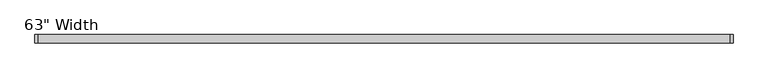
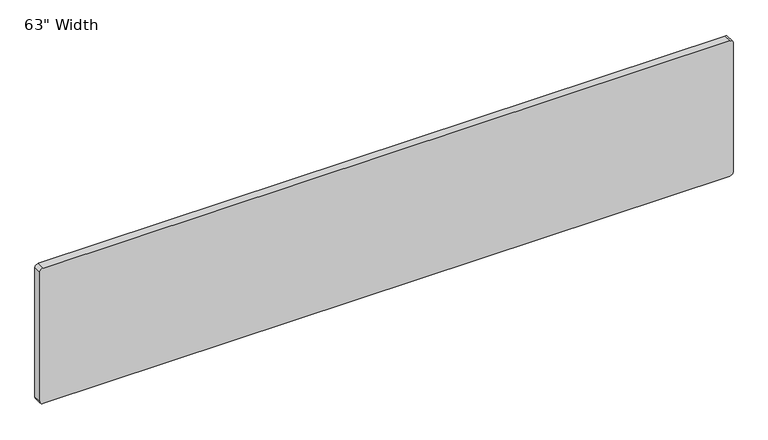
"""IFC4 building model written with IfcOpenShell, lengths in millimetres: furniture geometry."""

from ifc_helpers import new_model, si_unit, point, frame, frame_2d, origin, place, context, project, spatial, polyline, circle_curve, trimmed, segment, composite_curve, outline, extrude, source, transform, mapped, element, save


def furniture_a0e4602a(model_context):
    return source(origin(), model_context, "Body", "SweptSolid", [
        extrude(outline(composite_curve([segment(polyline([(762.0, 792.1625), (762.0, -792.1625)]), True, "CONTINUOUS"), segment(trimmed(circle_curve(frame_2d((754.0625, -792.1625)), 7.9375), [point((762.0, -792.1625))], [point((754.0625, -800.1))], False, "CARTESIAN"), True, "CONTINUOUS"), segment(polyline([(754.0625, -800.1), (439.7375, -800.1)]), True, "CONTINUOUS"), segment(trimmed(circle_curve(frame_2d((439.7375, -792.1625)), 7.9375), [point((439.7375, -800.1))], [point((431.8, -792.1625))], False, "CARTESIAN"), True, "CONTINUOUS"), segment(polyline([(431.8, -792.1625), (431.8, 792.1625)]), True, "CONTINUOUS"), segment(trimmed(circle_curve(frame_2d((439.7375, 792.1625)), 7.9375), [point((431.8, 792.1625))], [point((439.7375, 800.1))], False, "CARTESIAN"), True, "CONTINUOUS"), segment(polyline([(439.7375, 800.1), (754.0625, 800.1)]), True, "CONTINUOUS"), segment(trimmed(circle_curve(frame_2d((754.0625, 792.1625)), 7.9375), [point((754.0625, 800.1))], [point((762.0, 792.1625))], False, "CARTESIAN"), True, "CONTINUOUS")], self_intersect=False)), frame((0.0, -9.525, 0.0), z_axis=(0.0, 1.0, 0.0), x_axis=(0.0, 0.0, 1.0)), (0.0, 0.0, 1.0), 19.05),
    ])


if __name__ == "__main__":
    model = new_model("IFC4")
    model_context = context("Model", 3, world=origin())
    ifc_project = project(units=[si_unit("LENGTHUNIT", "METRE", prefix="MILLI")], contexts=[model_context])
    site = spatial("IfcSite", under=ifc_project)
    building = spatial("IfcBuilding", under=site)
    placement = place(None, origin())
    furniture_shape = furniture_a0e4602a(model_context)
    element("IfcFurniture", 1, ObjectType="Haworth_Masters_Modesty_Special : 63\" Width", at=placement, inside=building, context=model_context, shape_type="MappedRepresentation", body=[
        mapped(furniture_shape, transform((0.0, 0.0, 0.0), x_axis=(1.0, 0.0, 0.0), y_axis=(0.0, 1.0, 0.0), z_axis=(0.0, 0.0, 1.0))),
    ])
    save(model, "model.ifc")
